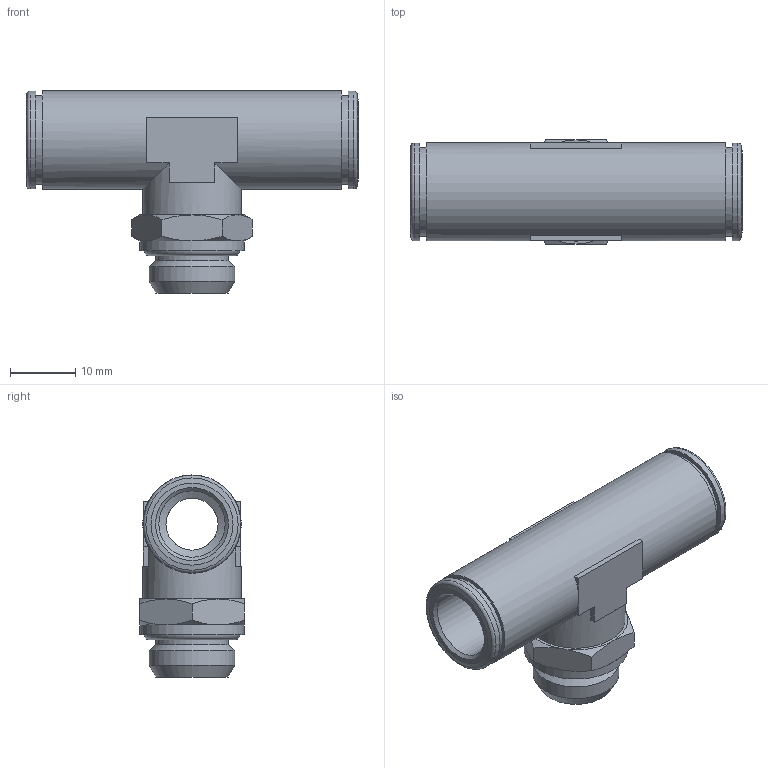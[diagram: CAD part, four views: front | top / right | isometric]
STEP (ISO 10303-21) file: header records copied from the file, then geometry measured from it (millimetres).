
FILE_DESCRIPTION(/* description */ (''),/* implementation_level */ '2;1');
FILE_NAME(/* name */ '202008-ES-I1-N2_STX020_10_G14_04.07.16',/* time_stamp */ '2016-07-04T09:17:07+02:00',/* author */ (''),/* organization */ (''),/* preprocessor_version */ 'ST-DEVELOPER v16.5',/* originating_system */ 'HiCAD 2016 2101.0 Build 254',/* authorisation */ '');
FILE_SCHEMA (('AUTOMOTIVE_DESIGN { 1 0 10303 214 1 1 1 1 }'));
Length unit declared in the file: millimetre
Products named in the file (6): Root; OR 11.11X1.78; 214627-ES; R202008-ES-N; DR10-N
Assembly tree (5 placements, depth 2):
  Root
    OR 11.11X1.78
    214627-ES
    R202008-ES-N
    DR10-N
    DR10-N
Bounding box: 51 x 16 x 31.05 mm (x, y, z)
Volume: 6478.7 mm3; surface area: 8033.6 mm2
Topology: 5 solids, 5 shells, 124 faces, 274 edges, 166 vertices
Faces by surface type: plane 55, cone 37, cylinder 27, torus 5
Full cylindrical faces by diameter (mm): 8 x2, 10.2 x4, 11.2 x1, 12.2 x2, 12.3 x2, 13 x2, 13.157 x1, 13.5 x2, 13.6 x2, 13.7 x2, 15 x2, 15.1 x2, 16 x1
Entity records: 6241 total; most frequent: CARTESIAN_POINT 1609, DIRECTION 588, PRESENTATION_STYLE_ASSIGNMENT 409, COLOUR_RGB 406, DRAUGHTING_PRE_DEFINED_CURVE_FONT 404, CURVE_STYLE 404, OVER_RIDING_STYLED_ITEM 404, ORIENTED_EDGE 404
